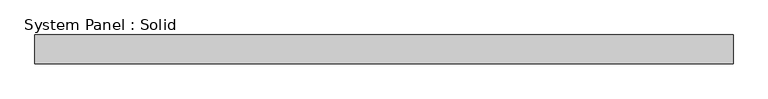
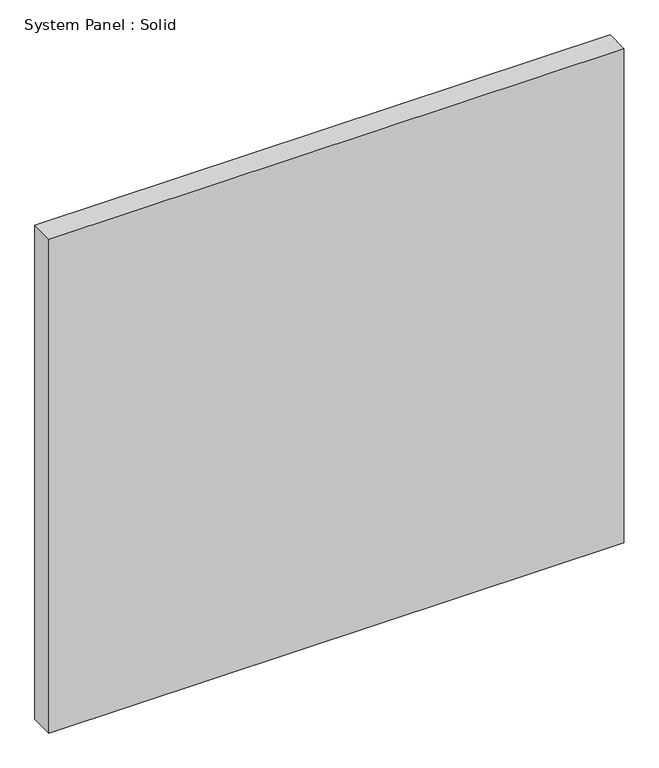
"""IFC4 building model written with IfcOpenShell, lengths in millimetres: plate geometry, System Panel : Solid."""

from ifc_helpers import new_model, si_unit, origin, origin_with_axes, place, context, project, spatial, polyline, outline, extrude, source, transform, mapped, element, save


def system_panel_solid_ece33ae8(model_context):
    return source(origin(), model_context, "Body", "SweptSolid", [
        extrude(outline(polyline([(721.2366101, -49.5), (-721.2366101, -49.5), (-721.2366101, 10.5), (721.2366101, 10.5), (721.2366101, -49.5)])), origin_with_axes(), (0.0, 0.0, 1.0), 1310.0),
    ])


if __name__ == "__main__":
    model = new_model("IFC4")
    model_context = context("Model", 3, world=origin())
    ifc_project = project(units=[si_unit("LENGTHUNIT", "METRE", prefix="MILLI")], contexts=[model_context])
    site = spatial("IfcSite", under=ifc_project)
    building = spatial("IfcBuilding", under=site)
    placement = place(None, origin())
    system_panel_solid_shape = system_panel_solid_ece33ae8(model_context)
    element("IfcPlate", 1, ObjectType="System Panel : Solid", at=placement, inside=building, context=model_context, shape_type="MappedRepresentation", body=[
        mapped(system_panel_solid_shape, transform((0.0, 0.0, 0.0), x_axis=(1.0, 0.0, 0.0), y_axis=(0.0, 1.0, 0.0), z_axis=(0.0, 0.0, 1.0))),
    ])
    save(model, "model.ifc")
